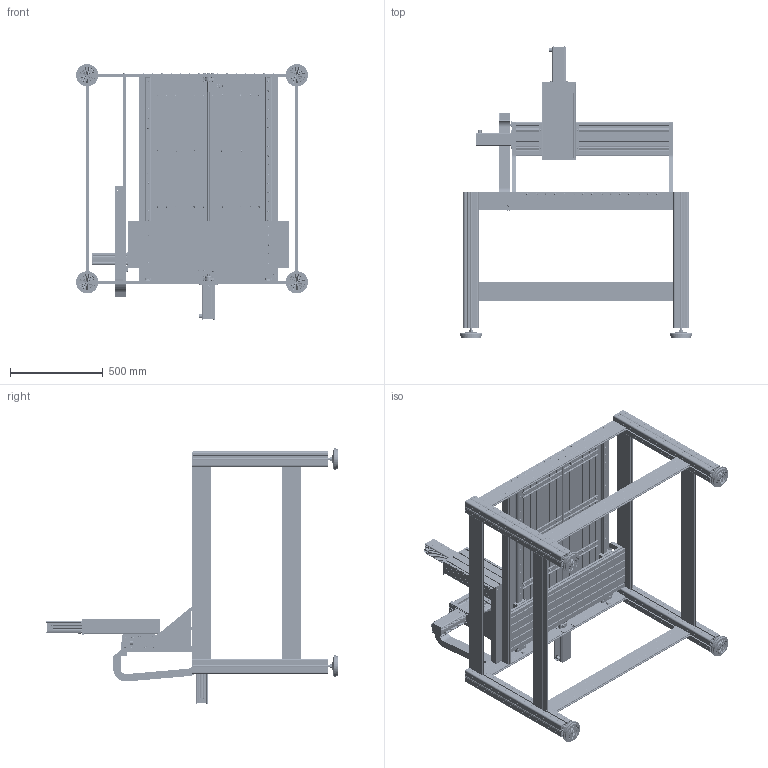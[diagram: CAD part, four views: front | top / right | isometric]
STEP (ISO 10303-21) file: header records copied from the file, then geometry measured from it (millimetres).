
FILE_DESCRIPTION (( 'STEP AP203' ), '1' );
FILE_NAME ('STEP_-_X-Y-Z Flachbetteinheit FB2 - ArtNr 246203 2040M - ArtNr 248500 0040 - ArtNr 230514 0400M.step', '2015-04-22T15:10:47', ( '' ), ( '' ), 'SwSTEP 2.0', 'SolidWorks 2014', '' );
FILE_SCHEMA (( 'CONFIG_CONTROL_DESIGN' ));
Products named in the file (6): Z-Achse FB2 Hub 160mm; Untergestell 750x1100; Untergestell Baugruppe_750x1100; STEP_-_X-Y-Z Flachbetteinheit FB2 - ArtNr 246203 2040M - ArtNr 248500 0040 - ArtNr 230514 0400M; X-Y-Achse f黵 Verfahrweg 530; TE0179 - F黨rungsschlitten_F乭rungsschlitten f乺 KG-Mutter Typ25
Assembly tree (6 placements, depth 3):
  STEP_-_X-Y-Z Flachbetteinheit FB2 - ArtNr 246203 2040M - ArtNr 248500 0040 - ArtNr 230514 0400M
    X-Y-Achse f黵 Verfahrweg 530
    TE0179 - F黨rungsschlitten_F乭rungsschlitten f乺 KG-Mutter Typ25  x2
    Z-Achse FB2 Hub 160mm
    Untergestell Baugruppe_750x1100
      Untergestell 750x1100
Bounding box: 1249.73 x 1570.1 x 1378.16 mm (x, y, z)
Volume: 36355314.4 mm3; surface area: 23851703.7 mm2
Topology: 424 solids, 427 shells, 16119 faces, 42056 edges, 27269 vertices
Faces by surface type: plane 9422, cylinder 4657, cone 848, torus 633, bspline 421, sphere 138
Full cylindrical faces by diameter (mm): 1.5 x6, 2 x4, 2.33 x2, 2.4 x2, 2.5 x40, 3 x16, 3.2 x19, 4 x25, 4.2 x14, 4.5 x24, 4.6 x1, 4.8 x8, 5 x68, 5.2 x41, 5.5 x21, 6 x229, 6.1 x8, 6.35 x2, 6.4 x13, 6.5 x74, 6.6 x68, 7 x167, 7.2 x3, 7.5 x38, 8 x16, 8.5 x16, 9 x1, 9.2 x3, 9.8 x2, 10 x185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
Entity records: 523574 total; most frequent: CARTESIAN_POINT 151015, ORIENTED_EDGE 74788, DIRECTION 74314, EDGE_CURVE 37394, VERTEX_POINT 25799, AXIS2_PLACEMENT_3D 25748, LINE 22818, VECTOR 22818
